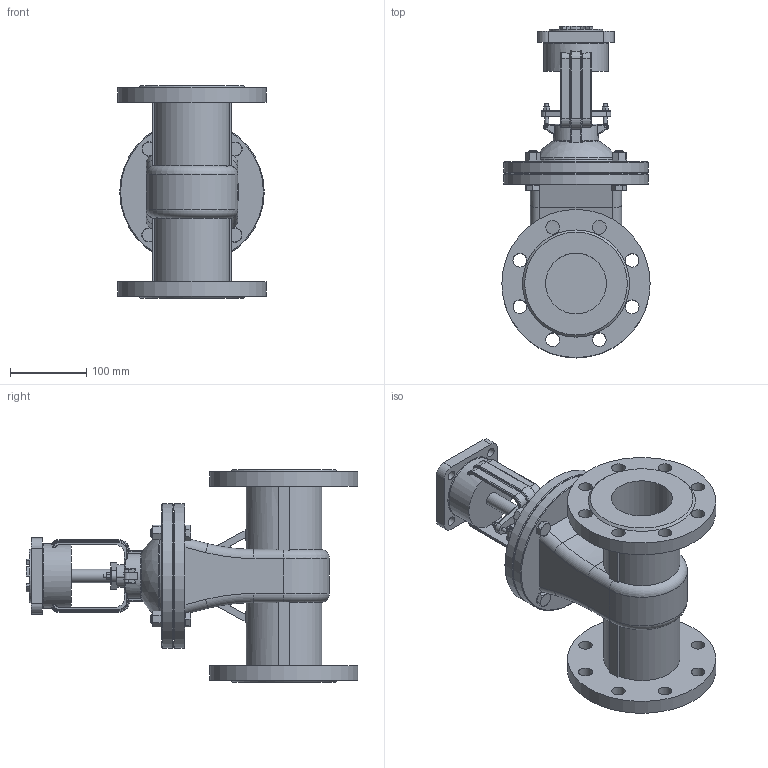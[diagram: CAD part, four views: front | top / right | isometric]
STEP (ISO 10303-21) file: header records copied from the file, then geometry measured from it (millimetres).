
FILE_DESCRIPTION(('STEP AP242'), '1');
FILE_NAME('GVWR2121M-2W-F-ÎÑÒ Çàäâèæêà êëèíîâàÿ ñ âûäâèæíûì øòîêîì Äó80 Ðó25', '2026-05-31T14:42:16', ('R2D2'), (''), 'C3D Converter', 'C3D Toolkit', '');
FILE_SCHEMA(('AP242_MANAGED_MODEL_BASED_3D_ENGINEERING_MIM_LF { 1 0 10303 442 1 1 4 }'));
Length unit declared in the file: millimetre
Products named in the file (1): GVWR2121M-2W-F-ОСТ
Bounding box: 195 x 436.5 x 280 mm (x, y, z)
Volume: 4537265 mm3; surface area: 498513.8 mm2
Topology: 1 solids, 1 shells, 820 faces, 2094 edges, 1315 vertices
Faces by surface type: plane 363, cylinder 164, cone 108, extrusion 106, torus 49, bspline 29, sphere 1
Full cylindrical faces by diameter (mm): 3 x3, 5 x4, 8 x2, 12 x12, 18 x17, 20 x1, 30 x1, 32 x1, 50 x1, 52 x1, 70 x1, 80 x2, 84.405 x1, 110 x2, 190 x2, 195 x2
Entity records: 44907 total; most frequent: CARTESIAN_POINT 19457, ORIENTED_EDGE 4046, DIRECTION 3429, EDGE_CURVE 2023, VERTEX_POINT 1313, AXIS2_PLACEMENT_3D 1222, EDGE_LOOP 1002, VECTOR 985
